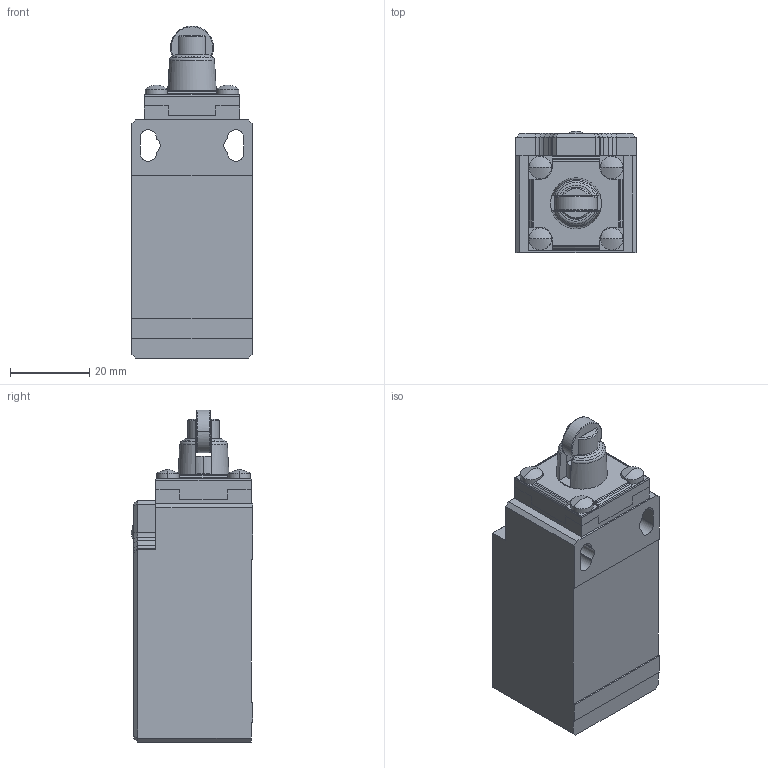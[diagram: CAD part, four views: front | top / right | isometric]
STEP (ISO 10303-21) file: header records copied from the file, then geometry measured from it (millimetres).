
FILE_DESCRIPTION(/* description */ (''),/* implementation_level */ '2;1');
FILE_NAME(/* name */ 'FC-003',/* time_stamp */ '2025-11-12T12:26:27+01:00',/* author */ (''),/* organization */ (''),/* preprocessor_version */ 'ST-DEVELOPER v16.5',/* originating_system */ 'Rhino 7.38',/* authorisation */ '');
FILE_SCHEMA (('AUTOMOTIVE_DESIGN'));
Length unit declared in the file: millimetre
Products named in the file (5): Document; FC-003; AP1T13Z11.stp; AP-T13.stp; Product.stp
Assembly tree (4 placements, depth 5):
  Document
    FC-003
      AP1T13Z11.stp
        AP-T13.stp
          Product.stp
Bounding box: 30.3 x 30.6 x 83.59 mm (x, y, z)
Volume: 55246.8 mm3; surface area: 13737.1 mm2
Topology: 4 solids, 4 shells, 219 faces, 567 edges, 364 vertices
Faces by surface type: plane 115, cylinder 71, bspline 33
Entity records: 7247 total; most frequent: CARTESIAN_POINT 3439, ORIENTED_EDGE 1132, EDGE_CURVE 566, VERTEX_POINT 364, B_SPLINE_CURVE_WITH_KNOTS 362, EDGE_LOOP 234, ADVANCED_FACE 219, FACE_OUTER_BOUND 219
